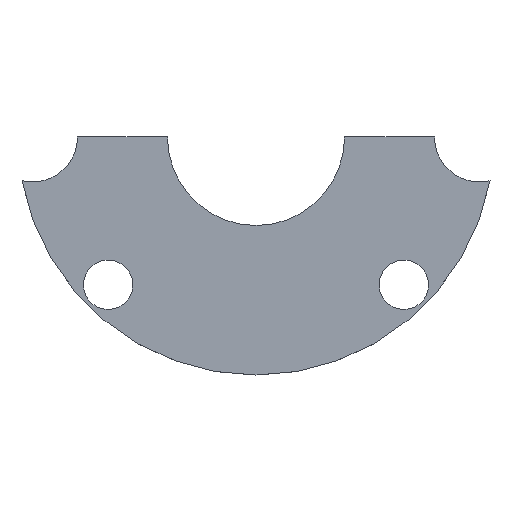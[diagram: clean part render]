
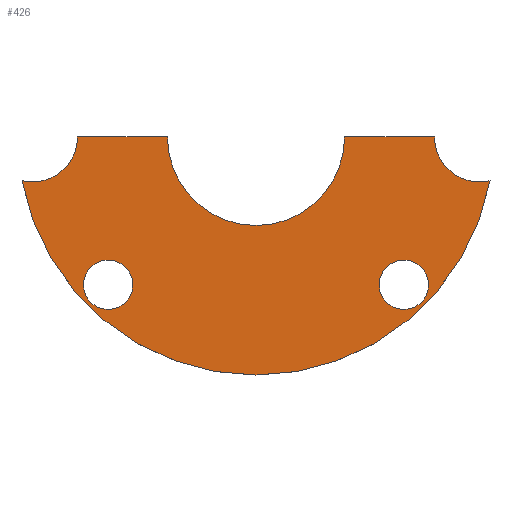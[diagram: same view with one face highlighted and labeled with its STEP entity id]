
A CAD part, top view. The second image highlights one B-rep face of the part: STEP entity #426.
In plain terms, the highlighted planar face has unit normal (0, 0, 1).
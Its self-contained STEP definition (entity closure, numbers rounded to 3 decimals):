
#24 = VERTEX_POINT('',#25);
#25 = CARTESIAN_POINT('',(8.06,-1.508,10.8));
#32 = CYLINDRICAL_SURFACE('',#33,8.2);
#33 = AXIS2_PLACEMENT_3D('',#34,#35,#36);
#34 = CARTESIAN_POINT('',(0.,0.,10.));
#35 = DIRECTION('',(0.,0.,1.));
#36 = DIRECTION('',(1.,0.,-0.));
#43 = CYLINDRICAL_SURFACE('',#44,1.55);
#44 = AXIS2_PLACEMENT_3D('',#45,#46,#47);
#45 = CARTESIAN_POINT('',(7.7,0.,9.9));
#46 = DIRECTION('',(0.,0.,1.));
#47 = DIRECTION('',(1.,0.,-0.));
#54 = EDGE_CURVE('',#55,#24,#57,.T.);
#55 = VERTEX_POINT('',#56);
#56 = CARTESIAN_POINT('',(-8.06,-1.508,10.8));
#57 = SURFACE_CURVE('',#58,(#63,#70),.PCURVE_S1.);
#58 = CIRCLE('',#59,8.2);
#59 = AXIS2_PLACEMENT_3D('',#60,#61,#62);
#60 = CARTESIAN_POINT('',(0.,0.,10.8));
#61 = DIRECTION('',(0.,0.,1.));
#62 = DIRECTION('',(1.,0.,-0.));
#63 = PCURVE('',#32,#64);
#64 = DEFINITIONAL_REPRESENTATION('',(#65),#69);
#65 = LINE('',#66,#67);
#66 = CARTESIAN_POINT('',(0.,0.8));
#67 = VECTOR('',#68,1.);
#68 = DIRECTION('',(1.,0.));
#69 = ( GEOMETRIC_REPRESENTATION_CONTEXT(2) 
PARAMETRIC_REPRESENTATION_CONTEXT() REPRESENTATION_CONTEXT('2D SPACE',''
  ) );
#70 = PCURVE('',#71,#76);
#71 = PLANE('',#72);
#72 = AXIS2_PLACEMENT_3D('',#73,#74,#75);
#73 = CARTESIAN_POINT('',(0.,0.,10.8));
#74 = DIRECTION('',(0.,0.,1.));
#75 = DIRECTION('',(1.,0.,-0.));
#76 = DEFINITIONAL_REPRESENTATION('',(#77),#81);
#77 = CIRCLE('',#78,8.2);
#78 = AXIS2_PLACEMENT_2D('',#79,#80);
#79 = CARTESIAN_POINT('',(0.,0.));
#80 = DIRECTION('',(1.,0.));
#81 = ( GEOMETRIC_REPRESENTATION_CONTEXT(2) 
PARAMETRIC_REPRESENTATION_CONTEXT() REPRESENTATION_CONTEXT('2D SPACE',''
  ) );
#98 = CYLINDRICAL_SURFACE('',#99,1.55);
#99 = AXIS2_PLACEMENT_3D('',#100,#101,#102);
#100 = CARTESIAN_POINT('',(-7.7,0.,9.9));
#101 = DIRECTION('',(0.,0.,1.));
#102 = DIRECTION('',(1.,0.,-0.));
#142 = VERTEX_POINT('',#143);
#143 = CARTESIAN_POINT('',(6.15,0.,10.8));
#156 = PLANE('',#157);
#157 = AXIS2_PLACEMENT_3D('',#158,#159,#160);
#158 = CARTESIAN_POINT('',(-50.,0.,-50.));
#159 = DIRECTION('',(0.,1.,0.));
#160 = DIRECTION('',(0.,0.,1.));
#190 = EDGE_CURVE('',#142,#24,#191,.T.);
#191 = SURFACE_CURVE('',#192,(#197,#204),.PCURVE_S1.);
#192 = CIRCLE('',#193,1.55);
#193 = AXIS2_PLACEMENT_3D('',#194,#195,#196);
#194 = CARTESIAN_POINT('',(7.7,0.,10.8));
#195 = DIRECTION('',(0.,0.,1.));
#196 = DIRECTION('',(1.,0.,-0.));
#197 = PCURVE('',#43,#198);
#198 = DEFINITIONAL_REPRESENTATION('',(#199),#203);
#199 = LINE('',#200,#201);
#200 = CARTESIAN_POINT('',(0.,0.9));
#201 = VECTOR('',#202,1.);
#202 = DIRECTION('',(1.,0.));
#203 = ( GEOMETRIC_REPRESENTATION_CONTEXT(2) 
PARAMETRIC_REPRESENTATION_CONTEXT() REPRESENTATION_CONTEXT('2D SPACE',''
  ) );
#204 = PCURVE('',#71,#205);
#205 = DEFINITIONAL_REPRESENTATION('',(#206),#210);
#206 = CIRCLE('',#207,1.55);
#207 = AXIS2_PLACEMENT_2D('',#208,#209);
#208 = CARTESIAN_POINT('',(7.7,0.));
#209 = DIRECTION('',(1.,0.));
#210 = ( GEOMETRIC_REPRESENTATION_CONTEXT(2) 
PARAMETRIC_REPRESENTATION_CONTEXT() REPRESENTATION_CONTEXT('2D SPACE',''
  ) );
#279 = CYLINDRICAL_SURFACE('',#280,3.05);
#280 = AXIS2_PLACEMENT_3D('',#281,#282,#283);
#281 = CARTESIAN_POINT('',(0.,0.,9.99));
#282 = DIRECTION('',(0.,0.,1.));
#283 = DIRECTION('',(1.,0.,-0.));
#304 = PLANE('',#305);
#305 = AXIS2_PLACEMENT_3D('',#306,#307,#308);
#306 = CARTESIAN_POINT('',(-50.,0.,-50.));
#307 = DIRECTION('',(0.,1.,0.));
#308 = DIRECTION('',(0.,0.,1.));
#334 = CYLINDRICAL_SURFACE('',#335,0.85);
#335 = AXIS2_PLACEMENT_3D('',#336,#337,#338);
#336 = CARTESIAN_POINT('',(-5.091,-5.091,9.9));
#337 = DIRECTION('',(0.,0.,1.));
#338 = DIRECTION('',(-0.707,-0.707,0.));
#365 = CYLINDRICAL_SURFACE('',#366,0.85);
#366 = AXIS2_PLACEMENT_3D('',#367,#368,#369);
#367 = CARTESIAN_POINT('',(5.091,-5.091,9.9));
#368 = DIRECTION('',(0.,0.,1.));
#369 = DIRECTION('',(0.707,-0.707,0.));
#381 = VERTEX_POINT('',#382);
#382 = CARTESIAN_POINT('',(-6.15,0.,10.8));
#403 = EDGE_CURVE('',#55,#381,#404,.T.);
#404 = SURFACE_CURVE('',#405,(#410,#417),.PCURVE_S1.);
#405 = CIRCLE('',#406,1.55);
#406 = AXIS2_PLACEMENT_3D('',#407,#408,#409);
#407 = CARTESIAN_POINT('',(-7.7,0.,10.8));
#408 = DIRECTION('',(0.,0.,1.));
#409 = DIRECTION('',(1.,0.,-0.));
#410 = PCURVE('',#98,#411);
#411 = DEFINITIONAL_REPRESENTATION('',(#412),#416);
#412 = LINE('',#413,#414);
#413 = CARTESIAN_POINT('',(0.,0.9));
#414 = VECTOR('',#415,1.);
#415 = DIRECTION('',(1.,0.));
#416 = ( GEOMETRIC_REPRESENTATION_CONTEXT(2) 
PARAMETRIC_REPRESENTATION_CONTEXT() REPRESENTATION_CONTEXT('2D SPACE',''
  ) );
#417 = PCURVE('',#71,#418);
#418 = DEFINITIONAL_REPRESENTATION('',(#419),#423);
#419 = CIRCLE('',#420,1.55);
#420 = AXIS2_PLACEMENT_2D('',#421,#422);
#421 = CARTESIAN_POINT('',(-7.7,0.));
#422 = DIRECTION('',(1.,0.));
#423 = ( GEOMETRIC_REPRESENTATION_CONTEXT(2) 
PARAMETRIC_REPRESENTATION_CONTEXT() REPRESENTATION_CONTEXT('2D SPACE',''
  ) );
#426 = ADVANCED_FACE('',(#427,#496,#522),#71,.T.);
#427 = FACE_BOUND('',#428,.T.);
#428 = EDGE_LOOP('',(#429,#430,#431,#432,#453,#477));
#429 = ORIENTED_EDGE('',*,*,#403,.F.);
#430 = ORIENTED_EDGE('',*,*,#54,.T.);
#431 = ORIENTED_EDGE('',*,*,#190,.F.);
#432 = ORIENTED_EDGE('',*,*,#433,.T.);
#433 = EDGE_CURVE('',#142,#434,#436,.T.);
#434 = VERTEX_POINT('',#435);
#435 = CARTESIAN_POINT('',(3.05,0.,10.8));
#436 = SURFACE_CURVE('',#437,(#441,#447),.PCURVE_S1.);
#437 = LINE('',#438,#439);
#438 = CARTESIAN_POINT('',(-25.,0.,10.8));
#439 = VECTOR('',#440,1.);
#440 = DIRECTION('',(-1.,0.,0.));
#441 = PCURVE('',#71,#442);
#442 = DEFINITIONAL_REPRESENTATION('',(#443),#446);
#443 = B_SPLINE_CURVE_WITH_KNOTS('',1,(#444,#445),.UNSPECIFIED.,.F.,.F.,
  (2,2),(-33.06,-16.94),.PIECEWISE_BEZIER_KNOTS.);
#444 = CARTESIAN_POINT('',(8.06,0.));
#445 = CARTESIAN_POINT('',(-8.06,0.));
#446 = ( GEOMETRIC_REPRESENTATION_CONTEXT(2) 
PARAMETRIC_REPRESENTATION_CONTEXT() REPRESENTATION_CONTEXT('2D SPACE',''
  ) );
#447 = PCURVE('',#156,#448);
#448 = DEFINITIONAL_REPRESENTATION('',(#449),#452);
#449 = B_SPLINE_CURVE_WITH_KNOTS('',1,(#450,#451),.UNSPECIFIED.,.F.,.F.,
  (2,2),(-33.06,-16.94),.PIECEWISE_BEZIER_KNOTS.);
#450 = CARTESIAN_POINT('',(60.8,58.06));
#451 = CARTESIAN_POINT('',(60.8,41.94));
#452 = ( GEOMETRIC_REPRESENTATION_CONTEXT(2) 
PARAMETRIC_REPRESENTATION_CONTEXT() REPRESENTATION_CONTEXT('2D SPACE',''
  ) );
#453 = ORIENTED_EDGE('',*,*,#454,.F.);
#454 = EDGE_CURVE('',#455,#434,#457,.T.);
#455 = VERTEX_POINT('',#456);
#456 = CARTESIAN_POINT('',(-3.05,0.,10.8));
#457 = SURFACE_CURVE('',#458,(#463,#470),.PCURVE_S1.);
#458 = CIRCLE('',#459,3.05);
#459 = AXIS2_PLACEMENT_3D('',#460,#461,#462);
#460 = CARTESIAN_POINT('',(0.,0.,10.8));
#461 = DIRECTION('',(0.,0.,1.));
#462 = DIRECTION('',(1.,0.,-0.));
#463 = PCURVE('',#71,#464);
#464 = DEFINITIONAL_REPRESENTATION('',(#465),#469);
#465 = CIRCLE('',#466,3.05);
#466 = AXIS2_PLACEMENT_2D('',#467,#468);
#467 = CARTESIAN_POINT('',(0.,0.));
#468 = DIRECTION('',(1.,0.));
#469 = ( GEOMETRIC_REPRESENTATION_CONTEXT(2) 
PARAMETRIC_REPRESENTATION_CONTEXT() REPRESENTATION_CONTEXT('2D SPACE',''
  ) );
#470 = PCURVE('',#279,#471);
#471 = DEFINITIONAL_REPRESENTATION('',(#472),#476);
#472 = LINE('',#473,#474);
#473 = CARTESIAN_POINT('',(0.,0.81));
#474 = VECTOR('',#475,1.);
#475 = DIRECTION('',(1.,0.));
#476 = ( GEOMETRIC_REPRESENTATION_CONTEXT(2) 
PARAMETRIC_REPRESENTATION_CONTEXT() REPRESENTATION_CONTEXT('2D SPACE',''
  ) );
#477 = ORIENTED_EDGE('',*,*,#478,.T.);
#478 = EDGE_CURVE('',#455,#381,#479,.T.);
#479 = SURFACE_CURVE('',#480,(#484,#490),.PCURVE_S1.);
#480 = LINE('',#481,#482);
#481 = CARTESIAN_POINT('',(-25.,0.,10.8));
#482 = VECTOR('',#483,1.);
#483 = DIRECTION('',(-1.,0.,0.));
#484 = PCURVE('',#71,#485);
#485 = DEFINITIONAL_REPRESENTATION('',(#486),#489);
#486 = B_SPLINE_CURVE_WITH_KNOTS('',1,(#487,#488),.UNSPECIFIED.,.F.,.F.,
  (2,2),(-33.06,-16.94),.PIECEWISE_BEZIER_KNOTS.);
#487 = CARTESIAN_POINT('',(8.06,0.));
#488 = CARTESIAN_POINT('',(-8.06,0.));
#489 = ( GEOMETRIC_REPRESENTATION_CONTEXT(2) 
PARAMETRIC_REPRESENTATION_CONTEXT() REPRESENTATION_CONTEXT('2D SPACE',''
  ) );
#490 = PCURVE('',#304,#491);
#491 = DEFINITIONAL_REPRESENTATION('',(#492),#495);
#492 = B_SPLINE_CURVE_WITH_KNOTS('',1,(#493,#494),.UNSPECIFIED.,.F.,.F.,
  (2,2),(-33.06,-16.94),.PIECEWISE_BEZIER_KNOTS.);
#493 = CARTESIAN_POINT('',(60.8,58.06));
#494 = CARTESIAN_POINT('',(60.8,41.94));
#495 = ( GEOMETRIC_REPRESENTATION_CONTEXT(2) 
PARAMETRIC_REPRESENTATION_CONTEXT() REPRESENTATION_CONTEXT('2D SPACE',''
  ) );
#496 = FACE_BOUND('',#497,.T.);
#497 = EDGE_LOOP('',(#498));
#498 = ORIENTED_EDGE('',*,*,#499,.F.);
#499 = EDGE_CURVE('',#500,#500,#502,.T.);
#500 = VERTEX_POINT('',#501);
#501 = CARTESIAN_POINT('',(-5.692,-5.692,10.8));
#502 = SURFACE_CURVE('',#503,(#508,#515),.PCURVE_S1.);
#503 = CIRCLE('',#504,0.85);
#504 = AXIS2_PLACEMENT_3D('',#505,#506,#507);
#505 = CARTESIAN_POINT('',(-5.091,-5.091,10.8));
#506 = DIRECTION('',(0.,0.,1.));
#507 = DIRECTION('',(-0.707,-0.707,0.));
#508 = PCURVE('',#71,#509);
#509 = DEFINITIONAL_REPRESENTATION('',(#510),#514);
#510 = CIRCLE('',#511,0.85);
#511 = AXIS2_PLACEMENT_2D('',#512,#513);
#512 = CARTESIAN_POINT('',(-5.091,-5.091));
#513 = DIRECTION('',(-0.707,-0.707));
#514 = ( GEOMETRIC_REPRESENTATION_CONTEXT(2) 
PARAMETRIC_REPRESENTATION_CONTEXT() REPRESENTATION_CONTEXT('2D SPACE',''
  ) );
#515 = PCURVE('',#334,#516);
#516 = DEFINITIONAL_REPRESENTATION('',(#517),#521);
#517 = LINE('',#518,#519);
#518 = CARTESIAN_POINT('',(0.,0.9));
#519 = VECTOR('',#520,1.);
#520 = DIRECTION('',(1.,0.));
#521 = ( GEOMETRIC_REPRESENTATION_CONTEXT(2) 
PARAMETRIC_REPRESENTATION_CONTEXT() REPRESENTATION_CONTEXT('2D SPACE',''
  ) );
#522 = FACE_BOUND('',#523,.T.);
#523 = EDGE_LOOP('',(#524));
#524 = ORIENTED_EDGE('',*,*,#525,.F.);
#525 = EDGE_CURVE('',#526,#526,#528,.T.);
#526 = VERTEX_POINT('',#527);
#527 = CARTESIAN_POINT('',(5.692,-5.692,10.8));
#528 = SURFACE_CURVE('',#529,(#534,#541),.PCURVE_S1.);
#529 = CIRCLE('',#530,0.85);
#530 = AXIS2_PLACEMENT_3D('',#531,#532,#533);
#531 = CARTESIAN_POINT('',(5.091,-5.091,10.8));
#532 = DIRECTION('',(0.,0.,1.));
#533 = DIRECTION('',(0.707,-0.707,0.));
#534 = PCURVE('',#71,#535);
#535 = DEFINITIONAL_REPRESENTATION('',(#536),#540);
#536 = CIRCLE('',#537,0.85);
#537 = AXIS2_PLACEMENT_2D('',#538,#539);
#538 = CARTESIAN_POINT('',(5.091,-5.091));
#539 = DIRECTION('',(0.707,-0.707));
#540 = ( GEOMETRIC_REPRESENTATION_CONTEXT(2) 
PARAMETRIC_REPRESENTATION_CONTEXT() REPRESENTATION_CONTEXT('2D SPACE',''
  ) );
#541 = PCURVE('',#365,#542);
#542 = DEFINITIONAL_REPRESENTATION('',(#543),#547);
#543 = LINE('',#544,#545);
#544 = CARTESIAN_POINT('',(0.,0.9));
#545 = VECTOR('',#546,1.);
#546 = DIRECTION('',(1.,0.));
#547 = ( GEOMETRIC_REPRESENTATION_CONTEXT(2) 
PARAMETRIC_REPRESENTATION_CONTEXT() REPRESENTATION_CONTEXT('2D SPACE',''
  ) );
